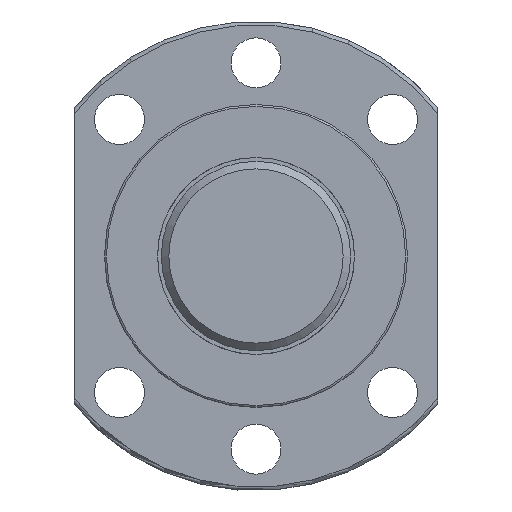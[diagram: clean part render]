
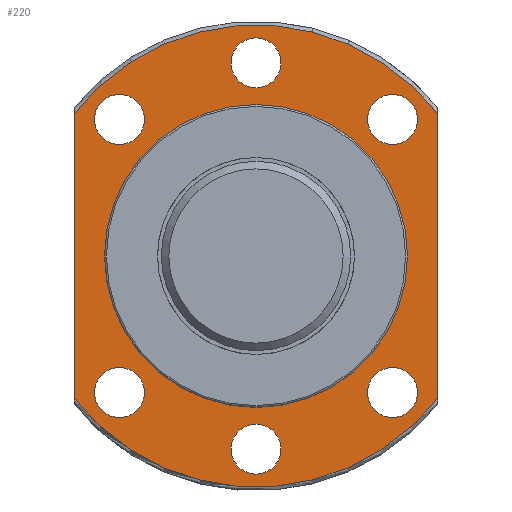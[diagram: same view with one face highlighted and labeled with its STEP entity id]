
A CAD part, left-side view. The second image highlights one B-rep face of the part: STEP entity #220.
In plain terms, the highlighted planar face has unit normal (-1, 0, 0).
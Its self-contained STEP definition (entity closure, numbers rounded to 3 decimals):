
#109=PLANE('',#679);
#128=FACE_BOUND('',#297,.T.);
#129=FACE_BOUND('',#298,.T.);
#130=FACE_BOUND('',#299,.T.);
#131=FACE_BOUND('',#300,.T.);
#132=FACE_BOUND('',#301,.T.);
#133=FACE_BOUND('',#302,.T.);
#134=FACE_BOUND('',#303,.T.);
#203=LINE('',#1115,#211);
#204=LINE('',#1116,#212);
#211=VECTOR('',#795,1.);
#212=VECTOR('',#796,1.);
#220=ADVANCED_FACE('',(#128,#129,#130,#131,#132,#133,#134,#266),#109,.F.);
#266=FACE_OUTER_BOUND('',#304,.T.);
#297=EDGE_LOOP('',(#411));
#298=EDGE_LOOP('',(#412));
#299=EDGE_LOOP('',(#413));
#300=EDGE_LOOP('',(#414));
#301=EDGE_LOOP('',(#415));
#302=EDGE_LOOP('',(#416));
#303=EDGE_LOOP('',(#417));
#304=EDGE_LOOP('',(#418,#419,#420,#421));
#411=ORIENTED_EDGE('',*,*,#577,.F.);
#412=ORIENTED_EDGE('',*,*,#578,.T.);
#413=ORIENTED_EDGE('',*,*,#579,.T.);
#414=ORIENTED_EDGE('',*,*,#580,.T.);
#415=ORIENTED_EDGE('',*,*,#581,.T.);
#416=ORIENTED_EDGE('',*,*,#582,.T.);
#417=ORIENTED_EDGE('',*,*,#583,.T.);
#418=ORIENTED_EDGE('',*,*,#575,.T.);
#419=ORIENTED_EDGE('',*,*,#584,.T.);
#420=ORIENTED_EDGE('',*,*,#556,.T.);
#421=ORIENTED_EDGE('',*,*,#585,.F.);
#504=VERTEX_POINT('',#953);
#505=VERTEX_POINT('',#954);
#517=VERTEX_POINT('',#1078);
#518=VERTEX_POINT('',#1080);
#519=VERTEX_POINT('',#1102);
#520=VERTEX_POINT('',#1104);
#521=VERTEX_POINT('',#1106);
#522=VERTEX_POINT('',#1108);
#523=VERTEX_POINT('',#1110);
#524=VERTEX_POINT('',#1112);
#525=VERTEX_POINT('',#1114);
#556=EDGE_CURVE('',#504,#505,#612,.T.);
#575=EDGE_CURVE('',#518,#517,#622,.T.);
#577=EDGE_CURVE('',#519,#519,#623,.T.);
#578=EDGE_CURVE('',#520,#520,#624,.T.);
#579=EDGE_CURVE('',#521,#521,#625,.T.);
#580=EDGE_CURVE('',#522,#522,#626,.T.);
#581=EDGE_CURVE('',#523,#523,#627,.T.);
#582=EDGE_CURVE('',#524,#524,#628,.T.);
#583=EDGE_CURVE('',#525,#525,#629,.T.);
#584=EDGE_CURVE('',#517,#504,#203,.T.);
#585=EDGE_CURVE('',#518,#505,#204,.T.);
#612=CIRCLE('',#656,30.5);
#622=CIRCLE('',#670,30.5);
#623=CIRCLE('',#672,20.);
#624=CIRCLE('',#673,3.3);
#625=CIRCLE('',#674,3.3);
#626=CIRCLE('',#675,3.3);
#627=CIRCLE('',#676,3.3);
#628=CIRCLE('',#677,3.3);
#629=CIRCLE('',#678,3.3);
#656=AXIS2_PLACEMENT_3D('',#952,#745,#746);
#670=AXIS2_PLACEMENT_3D('',#1079,#777,#778);
#672=AXIS2_PLACEMENT_3D('',#1101,#781,#782);
#673=AXIS2_PLACEMENT_3D('',#1103,#783,#784);
#674=AXIS2_PLACEMENT_3D('',#1105,#785,#786);
#675=AXIS2_PLACEMENT_3D('',#1107,#787,#788);
#676=AXIS2_PLACEMENT_3D('',#1109,#789,#790);
#677=AXIS2_PLACEMENT_3D('',#1111,#791,#792);
#678=AXIS2_PLACEMENT_3D('',#1113,#793,#794);
#679=AXIS2_PLACEMENT_3D('',#1117,#797,#798);
#745=DIRECTION('',(-1.,0.,0.));
#746=DIRECTION('',(0.,0.,1.));
#777=DIRECTION('',(-1.,0.,0.));
#778=DIRECTION('',(0.,0.,1.));
#781=DIRECTION('',(-1.,0.,0.));
#782=DIRECTION('',(0.,0.,1.));
#783=DIRECTION('',(1.,0.,0.));
#784=DIRECTION('',(0.,0.,-1.));
#785=DIRECTION('',(1.,0.,0.));
#786=DIRECTION('',(0.,0.,-1.));
#787=DIRECTION('',(1.,0.,0.));
#788=DIRECTION('',(0.,0.,-1.));
#789=DIRECTION('',(1.,0.,0.));
#790=DIRECTION('',(0.,0.,-1.));
#791=DIRECTION('',(1.,0.,0.));
#792=DIRECTION('',(0.,0.,-1.));
#793=DIRECTION('',(1.,0.,0.));
#794=DIRECTION('',(0.,0.,-1.));
#795=DIRECTION('',(0.,0.,-1.));
#796=DIRECTION('',(0.,0.,-1.));
#797=DIRECTION('',(1.,0.,0.));
#798=DIRECTION('',(0.,0.,-1.));
#952=CARTESIAN_POINT('',(-31.,0.,0.));
#953=CARTESIAN_POINT('',(-31.,24.,-18.822));
#954=CARTESIAN_POINT('',(-31.,-24.,-18.822));
#1078=CARTESIAN_POINT('',(-31.,24.,18.822));
#1079=CARTESIAN_POINT('',(-31.,0.,0.));
#1080=CARTESIAN_POINT('',(-31.,-24.,18.822));
#1101=CARTESIAN_POINT('',(-31.,0.,0.));
#1102=CARTESIAN_POINT('',(-31.,0.,20.));
#1103=CARTESIAN_POINT('',(-31.,18.031,18.031));
#1104=CARTESIAN_POINT('',(-31.,18.031,14.731));
#1105=CARTESIAN_POINT('',(-31.,-18.031,18.031));
#1106=CARTESIAN_POINT('',(-31.,-18.031,14.731));
#1107=CARTESIAN_POINT('',(-31.,-18.031,-18.031));
#1108=CARTESIAN_POINT('',(-31.,-18.031,-21.331));
#1109=CARTESIAN_POINT('',(-31.,18.031,-18.031));
#1110=CARTESIAN_POINT('',(-31.,18.031,-21.331));
#1111=CARTESIAN_POINT('',(-31.,0.,25.5));
#1112=CARTESIAN_POINT('',(-31.,0.,22.2));
#1113=CARTESIAN_POINT('',(-31.,0.,-25.5));
#1114=CARTESIAN_POINT('',(-31.,0.,-28.8));
#1115=CARTESIAN_POINT('',(-31.,24.,0.));
#1116=CARTESIAN_POINT('',(-31.,-24.,0.));
#1117=CARTESIAN_POINT('',(-31.,25.25,0.));
